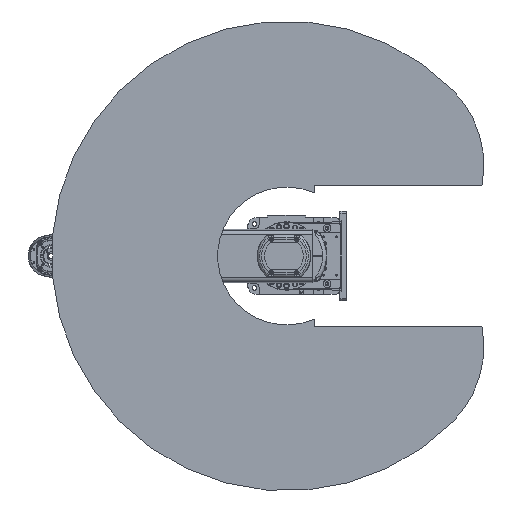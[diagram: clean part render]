
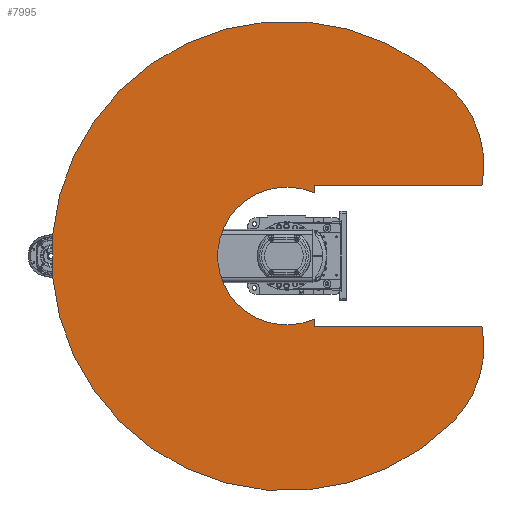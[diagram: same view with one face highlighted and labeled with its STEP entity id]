
A CAD part, front view. The second image highlights one B-rep face of the part: STEP entity #7995.
In plain terms, the highlighted planar face has unit normal (0, -1, 0).
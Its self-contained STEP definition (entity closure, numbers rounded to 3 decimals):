
#7995 = ADVANCED_FACE( '', ( #17132 ), #17133, .F. );
#17132 = FACE_OUTER_BOUND( '', #27224, .T. );
#17133 = PLANE( '', #27225 );
#27224 = EDGE_LOOP( '', ( #49040, #49041, #49042, #49043, #49044, #49045, #49046, #49047 ) );
#27225 = AXIS2_PLACEMENT_3D( '', #49048, #49049, #49050 );
#49040 = ORIENTED_EDGE( '', *, *, #58975, .T. );
#49041 = ORIENTED_EDGE( '', *, *, #51386, .F. );
#49042 = ORIENTED_EDGE( '', *, *, #52191, .F. );
#49043 = ORIENTED_EDGE( '', *, *, #55510, .F. );
#49044 = ORIENTED_EDGE( '', *, *, #58588, .T. );
#49045 = ORIENTED_EDGE( '', *, *, #54539, .T. );
#49046 = ORIENTED_EDGE( '', *, *, #59309, .T. );
#49047 = ORIENTED_EDGE( '', *, *, #58097, .T. );
#49048 = CARTESIAN_POINT( '', ( 106.066, 0., 106.066 ) );
#49049 = DIRECTION( '', ( 0., 1., 0. ) );
#49050 = DIRECTION( '', ( 0., 0., 1. ) );
#51386 = EDGE_CURVE( '', #60493, #60489, #60495, .T. );
#52191 = EDGE_CURVE( '', #61893, #60493, #61894, .T. );
#54539 = EDGE_CURVE( '', #65764, #65765, #65766, .T. );
#55510 = EDGE_CURVE( '', #67248, #61893, #67250, .T. );
#58097 = EDGE_CURVE( '', #70809, #70807, #70810, .T. );
#58588 = EDGE_CURVE( '', #67248, #65764, #71384, .T. );
#58975 = EDGE_CURVE( '', #70807, #60489, #71819, .T. );
#59309 = EDGE_CURVE( '', #65765, #70809, #72177, .T. );
#60489 = VERTEX_POINT( '', #74001 );
#60493 = VERTEX_POINT( '', #74006 );
#60495 = CIRCLE( '', #74009, 250. );
#61893 = VERTEX_POINT( '', #76051 );
#61894 = CIRCLE( '', #76052, 550. );
#65764 = VERTEX_POINT( '', #82832 );
#65765 = VERTEX_POINT( '', #82833 );
#65766 = LINE( '', #82834, #82835 );
#67248 = VERTEX_POINT( '', #85454 );
#67250 = CIRCLE( '', #85457, 250. );
#70807 = VERTEX_POINT( '', #91556 );
#70809 = VERTEX_POINT( '', #91559 );
#70810 = LINE( '', #91560, #91561 );
#71384 = LINE( '', #92600, #92601 );
#71819 = LINE( '', #93335, #93336 );
#72177 = CIRCLE( '', #93896, 161.22 );
#74001 = CARTESIAN_POINT( '', ( -165., 0., 457.649 ) );
#74006 = CARTESIAN_POINT( '', ( -388.909, 0., 388.909 ) );
#74009 = AXIS2_PLACEMENT_3D( '', #94897, #94898, #94899 );
#76051 = CARTESIAN_POINT( '', ( 388.909, 0., 388.909 ) );
#76052 = AXIS2_PLACEMENT_3D( '', #95970, #95971, #95972 );
#82832 = CARTESIAN_POINT( '', ( 165., 0., 65. ) );
#82833 = CARTESIAN_POINT( '', ( 147.536, 0., 65. ) );
#82834 = CARTESIAN_POINT( '', ( 165., 0., 65. ) );
#82835 = VECTOR( '', #98958, 1000. );
#85454 = CARTESIAN_POINT( '', ( 165., 0., 457.649 ) );
#85457 = AXIS2_PLACEMENT_3D( '', #100054, #100055, #100056 );
#91556 = CARTESIAN_POINT( '', ( -165., 0., 65. ) );
#91559 = CARTESIAN_POINT( '', ( -147.536, 0., 65. ) );
#91560 = CARTESIAN_POINT( '', ( 165., 0., 65. ) );
#91561 = VECTOR( '', #102825, 1000. );
#92600 = CARTESIAN_POINT( '', ( 165., 0., 565. ) );
#92601 = VECTOR( '', #103236, 1000. );
#93335 = CARTESIAN_POINT( '', ( -165., 0., 65. ) );
#93336 = VECTOR( '', #103530, 1000. );
#93896 = AXIS2_PLACEMENT_3D( '', #103692, #103693, #103694 );
#94897 = CARTESIAN_POINT( '', ( -212.132, 0., 212.132 ) );
#94898 = DIRECTION( '', ( 0., 1., 0. ) );
#94899 = DIRECTION( '', ( 1., 0., 0. ) );
#95970 = CARTESIAN_POINT( '', ( 0., 0., 0. ) );
#95971 = DIRECTION( '', ( 0., 1., 0. ) );
#95972 = DIRECTION( '', ( 1., 0., 0. ) );
#98958 = DIRECTION( '', ( -1., 0., 0. ) );
#100054 = CARTESIAN_POINT( '', ( 212.132, 0., 212.132 ) );
#100055 = DIRECTION( '', ( 0., 1., 0. ) );
#100056 = DIRECTION( '', ( 1., 0., 0. ) );
#102825 = DIRECTION( '', ( -1., 0., 0. ) );
#103236 = DIRECTION( '', ( 0., 0., -1. ) );
#103530 = DIRECTION( '', ( 0., 0., 1. ) );
#103692 = CARTESIAN_POINT( '', ( 0., 0., 0. ) );
#103693 = DIRECTION( '', ( 0., 1., 0. ) );
#103694 = DIRECTION( '', ( 1., 0., 0. ) );
